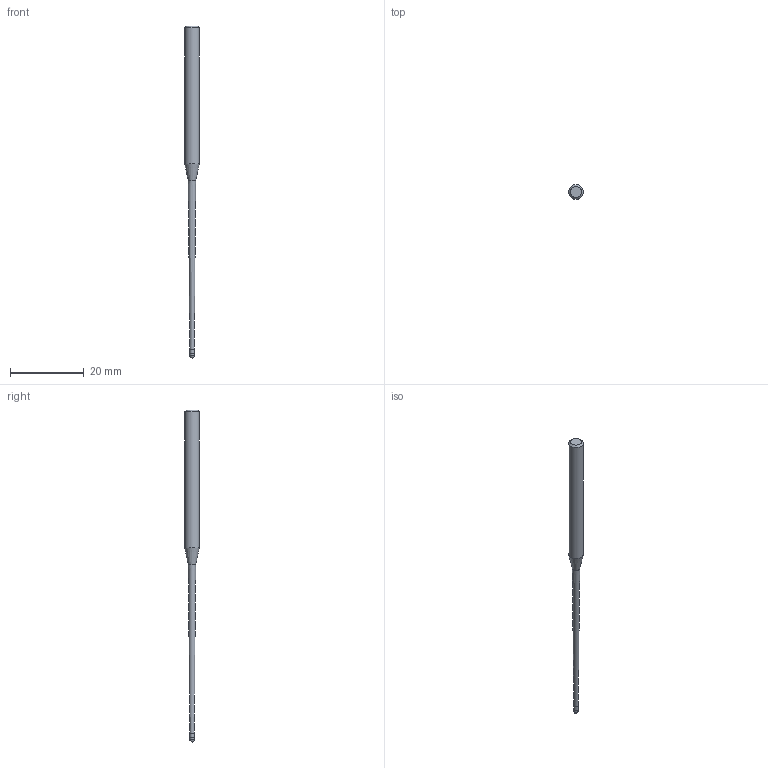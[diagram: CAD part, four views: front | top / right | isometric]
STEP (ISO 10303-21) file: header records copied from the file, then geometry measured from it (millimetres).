
FILE_DESCRIPTION((''),'2;1');
FILE_NAME('C:\Users\nsx150\AppData\Local\Temp\Mastercam 2021\SNAKH10GOD\TEMP.step','2021-10-21T13:32:34',(''),(''),'STEP Write','Mastercam 2021 ... CNC Software, Inc.','');
FILE_SCHEMA(('AUTOMOTIVE_DESIGN'));
Length unit declared in the file: millimetre
Products named in the file (1): None
Bounding box: 4 x 4 x 90 mm (x, y, z)
Volume: 597 mm3; surface area: 761.9 mm2
Topology: 2 solids, 2 shells, 10 faces, 16 edges, 9 vertices
Faces by surface type: plane 3, cylinder 3, cone 3, sphere 1
Full cylindrical faces by diameter (mm): 1.185 x1, 1.2 x1, 4 x1
Entity records: 232 total; most frequent: DIRECTION 40, CARTESIAN_POINT 28, AXIS2_PLACEMENT_3D 20, ORIENTED_EDGE 16, EDGE_LOOP 16, STYLED_ITEM 13, ADVANCED_FACE 10, FACE_BOUND 9
